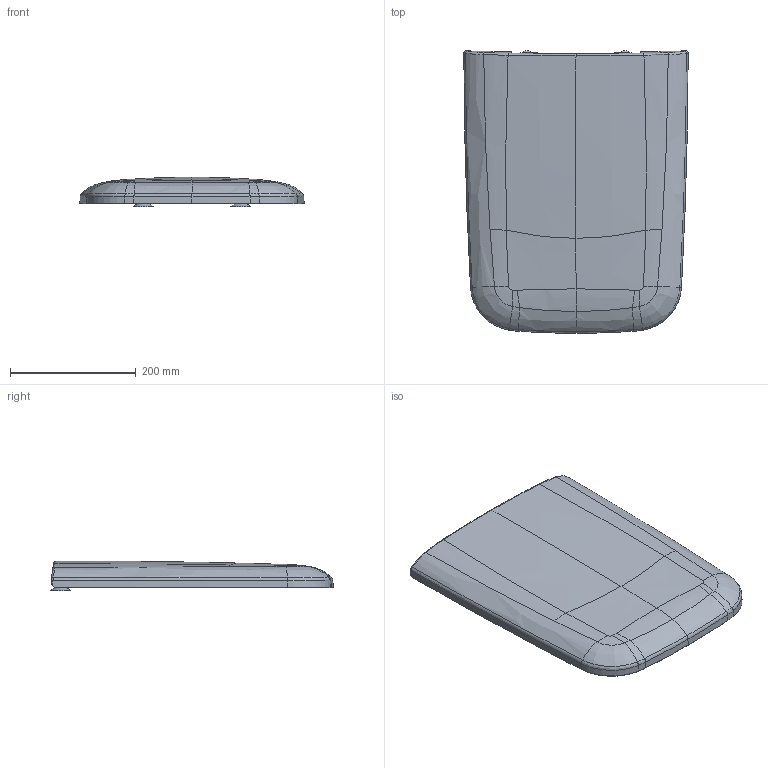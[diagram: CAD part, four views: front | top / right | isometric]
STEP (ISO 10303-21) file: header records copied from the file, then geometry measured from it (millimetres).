
FILE_DESCRIPTION(/* description */ (''),/* implementation_level */ '2;1');
FILE_NAME(/* name */ 'C:\Planerdaten\Export PLA\571900000\stp\571910000.stp',/* time_stamp */ '2021-01-06T15:21:51+01:00',/* author */ ('JANAN'),/* organization */ (''),/* preprocessor_version */ 'ST-DEVELOPER v16.13',/* originating_system */ 'Autodesk Inventor 2018',/* authorisation */ '');
FILE_SCHEMA (('AUTOMOTIVE_DESIGN { 1 0 10303 214 3 1 1 }'));
Length unit declared in the file: millimetre
Products named in the file (1): tmpAEE9.tmp
Bounding box: 356.39 x 449 x 47.09 mm (x, y, z)
Volume: 860757.1 mm3; surface area: 363429 mm2
Topology: 3 solids, 3 shells, 224 faces, 516 edges, 299 vertices
Faces by surface type: bspline 166, plane 24, cylinder 22, cone 12
Full cylindrical faces by diameter (mm): 9 x2, 10 x2, 11 x2, 16 x2, 24.971 x2, 32 x2
Entity records: 17535 total; most frequent: CARTESIAN_POINT 13316, ORIENTED_EDGE 980, EDGE_CURVE 490, DIRECTION 486, VERTEX_POINT 294, B_SPLINE_CURVE_WITH_KNOTS 281, EDGE_LOOP 246, STYLED_ITEM 227
